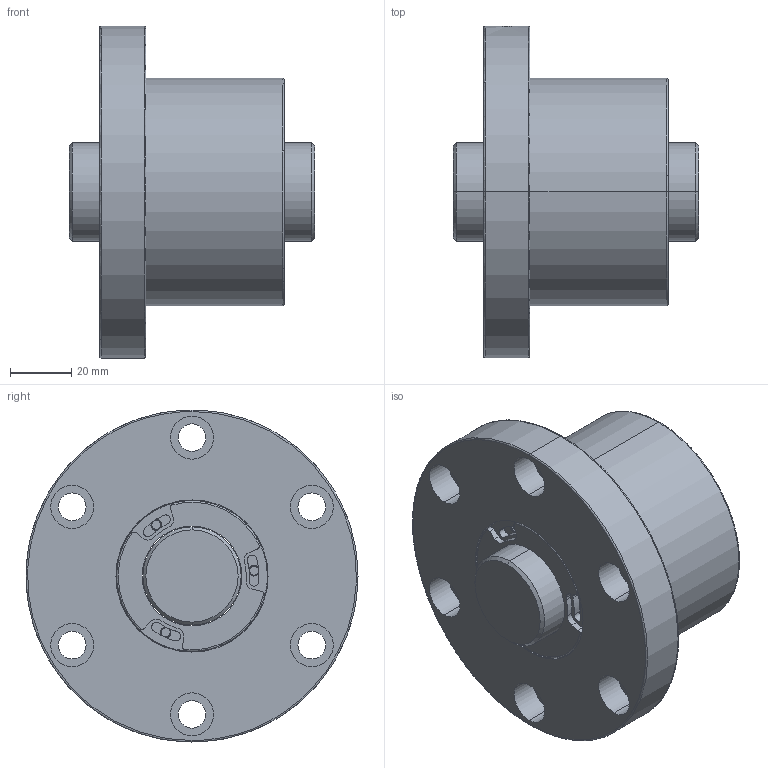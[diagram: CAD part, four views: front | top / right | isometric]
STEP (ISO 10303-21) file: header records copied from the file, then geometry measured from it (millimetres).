
FILE_DESCRIPTION (( 'STEP AP203' ), '1' );
FILE_NAME ('SFVSR03210C1N-C.STEP', '2020-06-17T05:30:08', ( '' ), ( '' ), 'SwSTEP 2.0', 'SolidWorks 2013', '' );
FILE_SCHEMA (( 'CONFIG_CONTROL_DESIGN' ));
Length unit declared in the file: millimetre
Products named in the file (1): SFVSR03210C1N-C
Bounding box: 80 x 108 x 108 mm (x, y, z)
Volume: 329641.9 mm3; surface area: 55281 mm2
Topology: 2 solids, 2 shells, 249 faces, 610 edges, 391 vertices
Faces by surface type: cylinder 144, plane 75, cone 16, bspline 14
Entity records: 7981 total; most frequent: CARTESIAN_POINT 1782, DIRECTION 1420, ORIENTED_EDGE 1220, EDGE_CURVE 610, AXIS2_PLACEMENT_3D 607, VERTEX_POINT 391, CIRCLE 371, EDGE_LOOP 291
